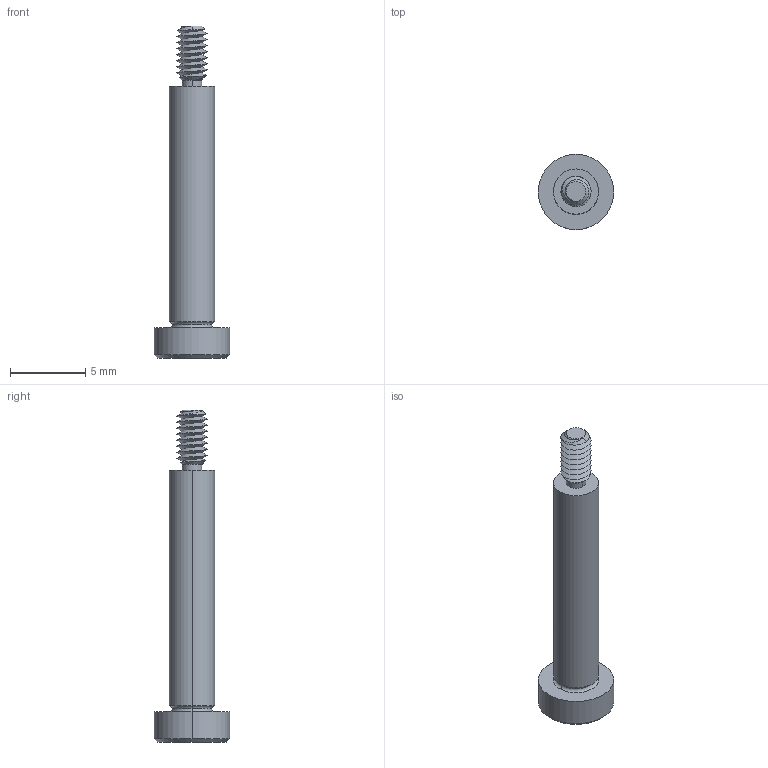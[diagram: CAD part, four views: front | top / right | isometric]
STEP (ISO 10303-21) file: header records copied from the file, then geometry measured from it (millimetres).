
FILE_DESCRIPTION (( 'STEP AP203' ), '1' );
FILE_NAME ('P0130.030-016-B2.step', '2021-11-09T20:57:30', ( '' ), ( '' ), 'SwSTEP 2.0', 'SolidWorks 2019', '' );
FILE_SCHEMA (( 'CONFIG_CONTROL_DESIGN' ));
Length unit declared in the file: millimetre
Products named in the file (1): P0130.030-016-B2
Bounding box: 5 x 5 x 22 mm (x, y, z)
Volume: 156.3 mm3; surface area: 266.9 mm2
Topology: 1 solids, 1 shells, 58 faces, 136 edges, 81 vertices
Faces by surface type: cylinder 22, plane 16, cone 14, torus 4, bspline 2
Entity records: 2452 total; most frequent: CARTESIAN_POINT 1166, ORIENTED_EDGE 268, DIRECTION 241, EDGE_CURVE 134, AXIS2_PLACEMENT_3D 97, VERTEX_POINT 81, EDGE_LOOP 61, ADVANCED_FACE 58
